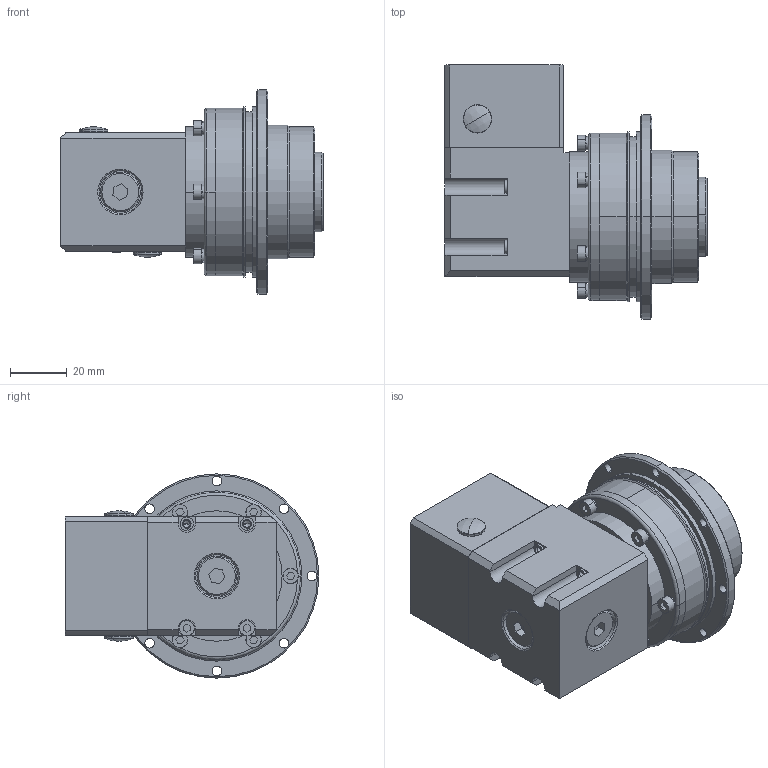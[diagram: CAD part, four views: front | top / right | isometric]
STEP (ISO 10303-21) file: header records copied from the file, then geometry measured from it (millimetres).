
FILE_DESCRIPTION (( 'STEP AP203' ), '1' );
FILE_NAME ('ADR047L1-OP2-8-25-30-46-M4.STEP', '2020-03-11T03:45:27', ( 'dell' ), ( '' ), 'SwSTEP 2.0', 'SolidWorks 2018', '' );
FILE_SCHEMA (( 'CONFIG_CONTROL_DESIGN' ));
Length unit declared in the file: millimetre
Products named in the file (1): ADR047L1-OP2-8-25-30-46-M4
Bounding box: 92.5 x 89.5 x 72 mm (x, y, z)
Volume: 142941 mm3; surface area: 72522.1 mm2
Topology: 39 solids, 39 shells, 1020 faces, 2653 edges, 1702 vertices
Faces by surface type: cylinder 406, plane 316, torus 128, cone 110, sphere 60
Entity records: 32430 total; most frequent: CARTESIAN_POINT 7871, DIRECTION 5403, ORIENTED_EDGE 4898, EDGE_CURVE 2449, AXIS2_PLACEMENT_3D 2204, VERTEX_POINT 1590, EDGE_LOOP 1187, CIRCLE 1183
